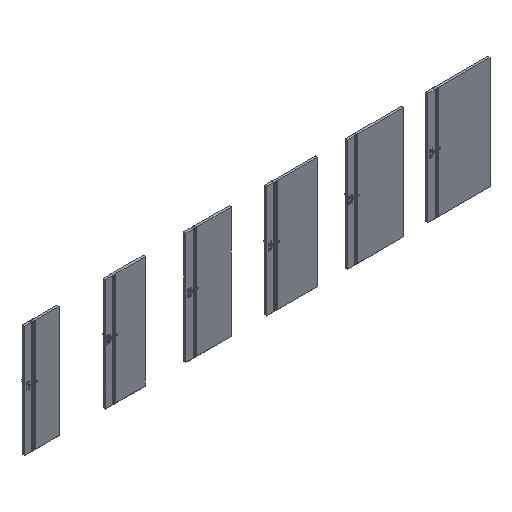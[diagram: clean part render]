
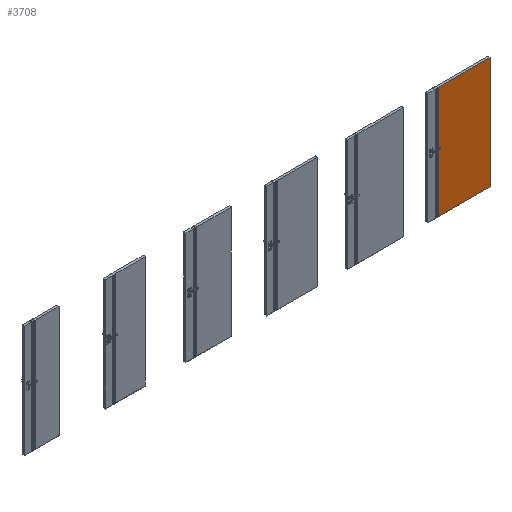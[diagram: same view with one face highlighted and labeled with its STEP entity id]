
A CAD part, isometric view. The second image highlights one B-rep face of the part: STEP entity #3708.
In plain terms, the highlighted planar face has unit normal (0, -1, 0).
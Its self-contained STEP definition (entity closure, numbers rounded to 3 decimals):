
#3708=ADVANCED_FACE('',(#5568),#4412,.F.);
#4412=PLANE('',#23961);
#5568=FACE_OUTER_BOUND('',#6960,.T.);
#6960=EDGE_LOOP('',(#12462,#12463,#12464,#12465));
#12462=ORIENTED_EDGE('',*,*,#18064,.F.);
#12463=ORIENTED_EDGE('',*,*,#18065,.T.);
#12464=ORIENTED_EDGE('',*,*,#18066,.F.);
#12465=ORIENTED_EDGE('',*,*,#18067,.F.);
#15114=VERTEX_POINT('',#42819);
#15115=VERTEX_POINT('',#42820);
#15116=VERTEX_POINT('',#42822);
#15117=VERTEX_POINT('',#42824);
#18064=EDGE_CURVE('',#15114,#15115,#20080,.T.);
#18065=EDGE_CURVE('',#15114,#15116,#20081,.T.);
#18066=EDGE_CURVE('',#15117,#15116,#20082,.T.);
#18067=EDGE_CURVE('',#15115,#15117,#20083,.T.);
#20080=LINE('',#42818,#21868);
#20081=LINE('',#42821,#21869);
#20082=LINE('',#42823,#21870);
#20083=LINE('',#42825,#21871);
#21868=VECTOR('',#29423,1.);
#21869=VECTOR('',#29424,1.);
#21870=VECTOR('',#29425,1.);
#21871=VECTOR('',#29426,1.);
#23961=AXIS2_PLACEMENT_3D('',#42826,#29427,#29428);
#29423=DIRECTION('',(0.,0.,1.));
#29424=DIRECTION('',(1.,0.,0.));
#29425=DIRECTION('',(0.,0.,-1.));
#29426=DIRECTION('',(1.,0.,0.));
#29427=DIRECTION('',(0.,1.,0.));
#29428=DIRECTION('',(-1.,0.,0.));
#42818=CARTESIAN_POINT('',(7132.15,-39.3,0.));
#42819=CARTESIAN_POINT('',(7132.15,-39.3,2.));
#42820=CARTESIAN_POINT('',(7132.15,-39.3,2017.));
#42821=CARTESIAN_POINT('',(7191.,-39.3,2.));
#42822=CARTESIAN_POINT('',(8059.,-39.3,2.));
#42823=CARTESIAN_POINT('',(8059.,-39.3,2017.));
#42824=CARTESIAN_POINT('',(8059.,-39.3,2017.));
#42825=CARTESIAN_POINT('',(7191.,-39.3,2017.));
#42826=CARTESIAN_POINT('',(7191.,-39.3,2017.));
